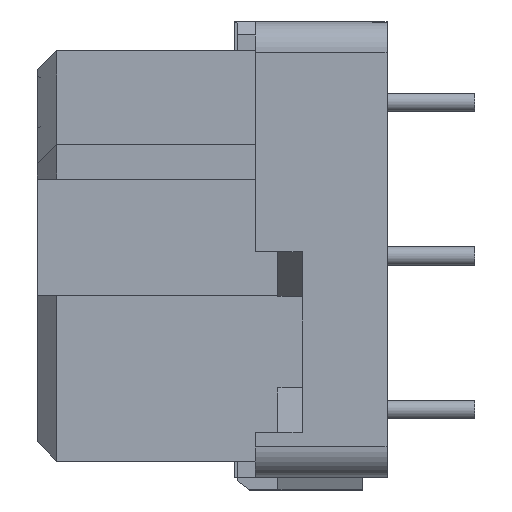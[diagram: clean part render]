
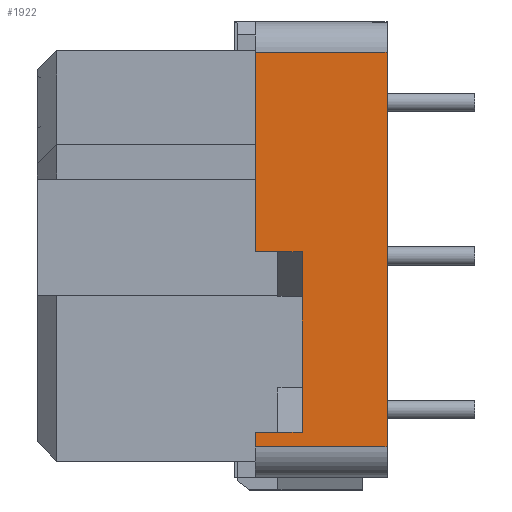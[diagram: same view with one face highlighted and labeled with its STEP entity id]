
A CAD part, left-side view. The second image highlights one B-rep face of the part: STEP entity #1922.
In plain terms, the highlighted planar face has unit normal (-1, 0, 0).
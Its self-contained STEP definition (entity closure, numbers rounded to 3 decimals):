
#1922=ADVANCED_FACE('',(#3318),#2621,.T.);
#2621=PLANE('',#16348);
#3318=FACE_OUTER_BOUND('',#4162,.T.);
#4162=EDGE_LOOP('',(#6825,#6826,#6827,#6828,#6829,#6830,#6831,#6832));
#6825=ORIENTED_EDGE('',*,*,#11731,.T.);
#6826=ORIENTED_EDGE('',*,*,#11732,.T.);
#6827=ORIENTED_EDGE('',*,*,#11730,.T.);
#6828=ORIENTED_EDGE('',*,*,#11723,.T.);
#6829=ORIENTED_EDGE('',*,*,#11715,.T.);
#6830=ORIENTED_EDGE('',*,*,#11733,.T.);
#6831=ORIENTED_EDGE('',*,*,#11734,.T.);
#6832=ORIENTED_EDGE('',*,*,#11735,.T.);
#9914=VERTEX_POINT('',#23850);
#9915=VERTEX_POINT('',#23852);
#9921=VERTEX_POINT('',#23868);
#9924=VERTEX_POINT('',#23878);
#9926=VERTEX_POINT('',#23884);
#9927=VERTEX_POINT('',#23885);
#9928=VERTEX_POINT('',#23888);
#9929=VERTEX_POINT('',#23890);
#11715=EDGE_CURVE('',#9915,#9914,#13503,.T.);
#11723=EDGE_CURVE('',#9921,#9915,#13511,.T.);
#11730=EDGE_CURVE('',#9924,#9921,#13518,.T.);
#11731=EDGE_CURVE('',#9926,#9927,#13519,.T.);
#11732=EDGE_CURVE('',#9927,#9924,#13520,.T.);
#11733=EDGE_CURVE('',#9914,#9928,#13521,.T.);
#11734=EDGE_CURVE('',#9928,#9929,#13522,.T.);
#11735=EDGE_CURVE('',#9929,#9926,#13523,.T.);
#13503=LINE('',#23851,#15066);
#13511=LINE('',#23867,#15074);
#13518=LINE('',#23881,#15081);
#13519=LINE('',#23883,#15082);
#13520=LINE('',#23886,#15083);
#13521=LINE('',#23887,#15084);
#13522=LINE('',#23889,#15085);
#13523=LINE('',#23891,#15086);
#15066=VECTOR('',#19057,1.);
#15074=VECTOR('',#19069,1.);
#15081=VECTOR('',#19080,1.);
#15082=VECTOR('',#19083,1.);
#15083=VECTOR('',#19084,1.);
#15084=VECTOR('',#19085,1.);
#15085=VECTOR('',#19086,1.);
#15086=VECTOR('',#19087,1.);
#16348=AXIS2_PLACEMENT_3D('',#23892,#19088,#19089);
#19057=DIRECTION('',(0.,1.,0.));
#19069=DIRECTION('',(0.,0.,-1.));
#19080=DIRECTION('',(0.,-1.,0.));
#19083=DIRECTION('',(0.,1.,0.));
#19084=DIRECTION('',(0.,0.,-1.));
#19085=DIRECTION('',(0.,0.,-1.));
#19086=DIRECTION('',(0.,-1.,0.));
#19087=DIRECTION('',(0.,0.,1.));
#19088=DIRECTION('',(-1.,0.,0.));
#19089=DIRECTION('',(0.,0.,-1.));
#23850=CARTESIAN_POINT('',(-53.647,-52.83,33.67));
#23851=CARTESIAN_POINT('',(-53.647,-54.38,33.67));
#23852=CARTESIAN_POINT('',(-53.647,-54.38,33.67));
#23867=CARTESIAN_POINT('',(-53.647,-54.38,39.62));
#23868=CARTESIAN_POINT('',(-53.647,-54.38,39.62));
#23878=CARTESIAN_POINT('',(-53.647,-52.83,39.62));
#23881=CARTESIAN_POINT('',(-53.647,-52.83,39.62));
#23883=CARTESIAN_POINT('',(-53.647,-57.18,46.21));
#23884=CARTESIAN_POINT('',(-53.647,-57.18,46.21));
#23885=CARTESIAN_POINT('',(-53.647,-52.83,46.21));
#23886=CARTESIAN_POINT('',(-53.647,-52.83,46.21));
#23887=CARTESIAN_POINT('',(-53.647,-52.83,33.67));
#23888=CARTESIAN_POINT('',(-53.647,-52.83,33.18));
#23889=CARTESIAN_POINT('',(-53.647,-52.83,33.18));
#23890=CARTESIAN_POINT('',(-53.647,-57.18,33.18));
#23891=CARTESIAN_POINT('',(-53.647,-57.18,33.18));
#23892=CARTESIAN_POINT('',(-53.647,-52.73,47.696));
